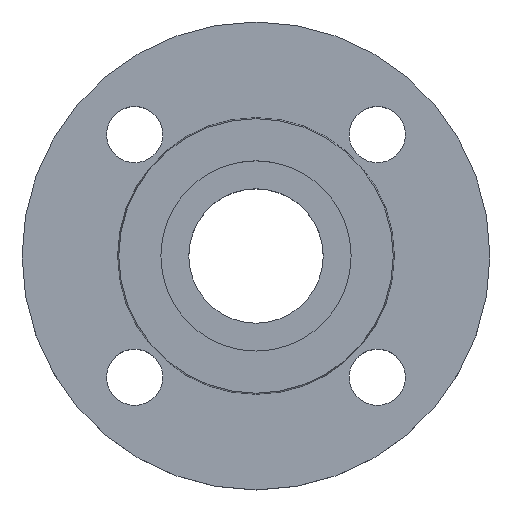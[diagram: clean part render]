
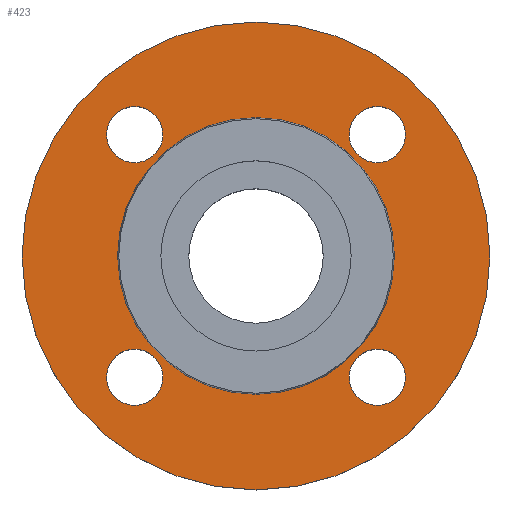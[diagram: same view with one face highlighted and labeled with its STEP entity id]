
A CAD part, top view. The second image highlights one B-rep face of the part: STEP entity #423.
In plain terms, the highlighted planar face has unit normal (0, 0, 1).
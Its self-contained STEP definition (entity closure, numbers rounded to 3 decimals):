
#32 = DIRECTION ( 'NONE',  ( -1., 0., 0. ) ) ;
#34 = CARTESIAN_POINT ( 'NONE',  ( 0., 0., -2. ) ) ;
#35 = DIRECTION ( 'NONE',  ( 0., 0., -1. ) ) ;
#36 = DIRECTION ( 'NONE',  ( 0., 0., -1. ) ) ;
#38 = DIRECTION ( 'NONE',  ( -1., 0., 0. ) ) ;
#43 = CARTESIAN_POINT ( 'NONE',  ( 0., 0., -2. ) ) ;
#72 = DIRECTION ( 'NONE',  ( 1., 0., 0. ) ) ;
#78 = DIRECTION ( 'NONE',  ( 0., 0., -1. ) ) ;
#79 = AXIS2_PLACEMENT_3D ( 'NONE', #270, #268, #266 ) ;
#81 = CARTESIAN_POINT ( 'NONE',  ( -38.891, 38.891, -2. ) ) ;
#124 = CARTESIAN_POINT ( 'NONE',  ( 75., 0., -2. ) ) ;
#128 = CARTESIAN_POINT ( 'NONE',  ( -47.891, -38.891, -2. ) ) ;
#141 = CARTESIAN_POINT ( 'NONE',  ( 47.891, 38.891, -2. ) ) ;
#150 = CARTESIAN_POINT ( 'NONE',  ( -47.891, 38.891, -2. ) ) ;
#216 = CIRCLE ( 'NONE', #406, 75. ) ;
#233 = DIRECTION ( 'NONE',  ( 1., 0., 0. ) ) ;
#234 = DIRECTION ( 'NONE',  ( 0., 0., -1. ) ) ;
#235 = CARTESIAN_POINT ( 'NONE',  ( 38.891, 38.891, -2. ) ) ;
#236 = EDGE_CURVE ( 'NONE', #556, #563, #520, .T. ) ;
#238 = CIRCLE ( 'NONE', #429, 75. ) ;
#248 = CARTESIAN_POINT ( 'NONE',  ( -38.891, 38.891, -2. ) ) ;
#250 = DIRECTION ( 'NONE',  ( 0., 0., -1. ) ) ;
#256 = DIRECTION ( 'NONE',  ( 1., 0., 0. ) ) ;
#257 = CARTESIAN_POINT ( 'NONE',  ( -38.891, -38.891, -2. ) ) ;
#262 = DIRECTION ( 'NONE',  ( 0., 0., -1. ) ) ;
#263 = DIRECTION ( 'NONE',  ( 1., 0., 0. ) ) ;
#266 = DIRECTION ( 'NONE',  ( -1., 0., 0. ) ) ;
#268 = DIRECTION ( 'NONE',  ( 0., 0., -1. ) ) ;
#270 = CARTESIAN_POINT ( 'NONE',  ( 0., 0., -2. ) ) ;
#303 = AXIS2_PLACEMENT_3D ( 'NONE', #542, #592, #593 ) ;
#305 = EDGE_CURVE ( 'NONE', #824, #612, #399, .T. ) ;
#306 = CIRCLE ( 'NONE', #303, 9. ) ;
#307 = EDGE_CURVE ( 'NONE', #565, #838, #314, .T. ) ;
#314 = CIRCLE ( 'NONE', #475, 9. ) ;
#318 = CIRCLE ( 'NONE', #363, 9. ) ;
#341 = EDGE_CURVE ( 'NONE', #577, #568, #469, .T. ) ;
#343 = CARTESIAN_POINT ( 'NONE',  ( 38.891, -38.891, -2. ) ) ;
#347 = DIRECTION ( 'NONE',  ( 0., 0., -1. ) ) ;
#353 = CARTESIAN_POINT ( 'NONE',  ( 29.891, 38.891, -2. ) ) ;
#354 = DIRECTION ( 'NONE',  ( 1., 0., 0. ) ) ;
#362 = DIRECTION ( 'NONE',  ( 0., 0., -1. ) ) ;
#363 = AXIS2_PLACEMENT_3D ( 'NONE', #235, #234, #233 ) ;
#376 = DIRECTION ( 'NONE',  ( -1., 0., 0. ) ) ;
#378 = CARTESIAN_POINT ( 'NONE',  ( 44.353, 0., -2. ) ) ;
#379 = CARTESIAN_POINT ( 'NONE',  ( -29.891, -38.891, -2. ) ) ;
#382 = CARTESIAN_POINT ( 'NONE',  ( -75., 0., -2. ) ) ;
#396 = DIRECTION ( 'NONE',  ( 0., 0., -1. ) ) ;
#399 = CIRCLE ( 'NONE', #463, 9. ) ;
#403 = CARTESIAN_POINT ( 'NONE',  ( -44.353, 0., -2. ) ) ;
#406 = AXIS2_PLACEMENT_3D ( 'NONE', #43, #35, #32 ) ;
#409 = DIRECTION ( 'NONE',  ( 1., 0., 0. ) ) ;
#415 = CARTESIAN_POINT ( 'NONE',  ( 29.891, -38.891, -2. ) ) ;
#423 = ADVANCED_FACE ( 'NONE', ( #501, #502, #505, #508, #509, #515 ), #525, .T. ) ;
#429 = AXIS2_PLACEMENT_3D ( 'NONE', #629, #396, #376 ) ;
#445 = DIRECTION ( 'NONE',  ( 1., 0., 0. ) ) ;
#448 = CIRCLE ( 'NONE', #456, 9. ) ;
#456 = AXIS2_PLACEMENT_3D ( 'NONE', #81, #78, #72 ) ;
#457 = DIRECTION ( 'NONE',  ( 0., 0., -1. ) ) ;
#463 = AXIS2_PLACEMENT_3D ( 'NONE', #248, #250, #256 ) ;
#467 = EDGE_CURVE ( 'NONE', #568, #577, #306, .T. ) ;
#469 = CIRCLE ( 'NONE', #470, 9. ) ;
#470 = AXIS2_PLACEMENT_3D ( 'NONE', #343, #347, #354 ) ;
#473 = AXIS2_PLACEMENT_3D ( 'NONE', #34, #36, #38 ) ;
#475 = AXIS2_PLACEMENT_3D ( 'NONE', #257, #262, #263 ) ;
#497 = AXIS2_PLACEMENT_3D ( 'NONE', #526, #527, #534 ) ;
#499 = CIRCLE ( 'NONE', #79, 44.353 ) ;
#501 = FACE_BOUND ( 'NONE', #777, .T. ) ;
#502 = FACE_BOUND ( 'NONE', #546, .T. ) ;
#505 = FACE_BOUND ( 'NONE', #813, .T. ) ;
#506 = AXIS2_PLACEMENT_3D ( 'NONE', #809, #362, #409 ) ;
#508 = FACE_BOUND ( 'NONE', #811, .T. ) ;
#509 = FACE_BOUND ( 'NONE', #846, .T. ) ;
#515 = FACE_OUTER_BOUND ( 'NONE', #840, .T. ) ;
#517 = CIRCLE ( 'NONE', #506, 9. ) ;
#520 = CIRCLE ( 'NONE', #473, 44.353 ) ;
#525 = PLANE ( 'NONE',  #497 ) ;
#526 = CARTESIAN_POINT ( 'NONE',  ( 44.353, 0., -2. ) ) ;
#527 = DIRECTION ( 'NONE',  ( 0., 0., 1. ) ) ;
#529 = EDGE_CURVE ( 'NONE', #547, #843, #238, .T. ) ;
#534 = DIRECTION ( 'NONE',  ( 1., 0., 0. ) ) ;
#542 = CARTESIAN_POINT ( 'NONE',  ( 38.891, -38.891, -2. ) ) ;
#546 = EDGE_LOOP ( 'NONE', ( #684, #685 ) ) ;
#547 = VERTEX_POINT ( 'NONE', #382 ) ;
#556 = VERTEX_POINT ( 'NONE', #378 ) ;
#563 = VERTEX_POINT ( 'NONE', #403 ) ;
#565 = VERTEX_POINT ( 'NONE', #379 ) ;
#568 = VERTEX_POINT ( 'NONE', #415 ) ;
#569 = CARTESIAN_POINT ( 'NONE',  ( -38.891, -38.891, -2. ) ) ;
#577 = VERTEX_POINT ( 'NONE', #743 ) ;
#581 = CIRCLE ( 'NONE', #594, 9. ) ;
#583 = EDGE_CURVE ( 'NONE', #838, #565, #581, .T. ) ;
#592 = DIRECTION ( 'NONE',  ( 0., 0., -1. ) ) ;
#593 = DIRECTION ( 'NONE',  ( 1., 0., 0. ) ) ;
#594 = AXIS2_PLACEMENT_3D ( 'NONE', #569, #457, #445 ) ;
#604 = CARTESIAN_POINT ( 'NONE',  ( -29.891, 38.891, -2. ) ) ;
#606 = EDGE_CURVE ( 'NONE', #829, #633, #517, .T. ) ;
#612 = VERTEX_POINT ( 'NONE', #604 ) ;
#629 = CARTESIAN_POINT ( 'NONE',  ( 0., 0., -2. ) ) ;
#633 = VERTEX_POINT ( 'NONE', #353 ) ;
#681 = ORIENTED_EDGE ( 'NONE', *, *, #341, .T. ) ;
#682 = ORIENTED_EDGE ( 'NONE', *, *, #467, .T. ) ;
#684 = ORIENTED_EDGE ( 'NONE', *, *, #307, .T. ) ;
#685 = ORIENTED_EDGE ( 'NONE', *, *, #583, .T. ) ;
#686 = ORIENTED_EDGE ( 'NONE', *, *, #880, .T. ) ;
#688 = ORIENTED_EDGE ( 'NONE', *, *, #305, .T. ) ;
#689 = ORIENTED_EDGE ( 'NONE', *, *, #606, .T. ) ;
#690 = ORIENTED_EDGE ( 'NONE', *, *, #748, .T. ) ;
#691 = ORIENTED_EDGE ( 'NONE', *, *, #722, .T. ) ;
#692 = ORIENTED_EDGE ( 'NONE', *, *, #236, .T. ) ;
#693 = ORIENTED_EDGE ( 'NONE', *, *, #899, .F. ) ;
#696 = ORIENTED_EDGE ( 'NONE', *, *, #529, .F. ) ;
#722 = EDGE_CURVE ( 'NONE', #563, #556, #499, .T. ) ;
#743 = CARTESIAN_POINT ( 'NONE',  ( 47.891, -38.891, -2. ) ) ;
#748 = EDGE_CURVE ( 'NONE', #633, #829, #318, .T. ) ;
#777 = EDGE_LOOP ( 'NONE', ( #681, #682 ) ) ;
#809 = CARTESIAN_POINT ( 'NONE',  ( 38.891, 38.891, -2. ) ) ;
#811 = EDGE_LOOP ( 'NONE', ( #689, #690 ) ) ;
#813 = EDGE_LOOP ( 'NONE', ( #686, #688 ) ) ;
#824 = VERTEX_POINT ( 'NONE', #150 ) ;
#829 = VERTEX_POINT ( 'NONE', #141 ) ;
#838 = VERTEX_POINT ( 'NONE', #128 ) ;
#840 = EDGE_LOOP ( 'NONE', ( #693, #696 ) ) ;
#843 = VERTEX_POINT ( 'NONE', #124 ) ;
#846 = EDGE_LOOP ( 'NONE', ( #691, #692 ) ) ;
#880 = EDGE_CURVE ( 'NONE', #612, #824, #448, .T. ) ;
#899 = EDGE_CURVE ( 'NONE', #843, #547, #216, .T. ) ;
